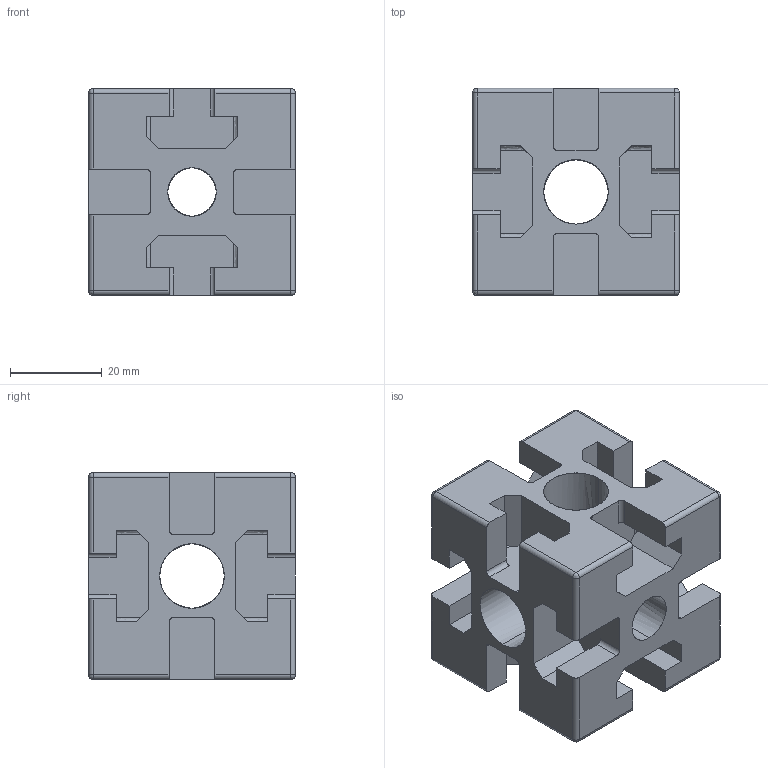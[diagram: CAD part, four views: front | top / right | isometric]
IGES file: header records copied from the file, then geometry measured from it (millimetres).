
Start section: SolidWorks IGES file using analytic representation for surfaces
Global section: file name: C:\Documents and Settings\Administrator\デスクトップ\指定保存後4回目\SolidWorks\SF\SF40・45\Bracket\クロスジョイント40_45_60_80\SFJ-F02.IGS,41HSolidWorks 2006 by; native system: SolidWorks Corporation; preprocessor: SolidWorks 2006 by SolidWorks Corporation; author: Administrator; date: 061215.171704; units: millimetre
Bounding box: 45 x 45 x 45 mm (x, y, z)
Surface area: 22065.6 mm2 (no closed solid volume)
Topology: 0 solids, 0 shells, 218 faces, 2556 edges, 2548 vertices
Faces by surface type: bspline 126, revolution 92
